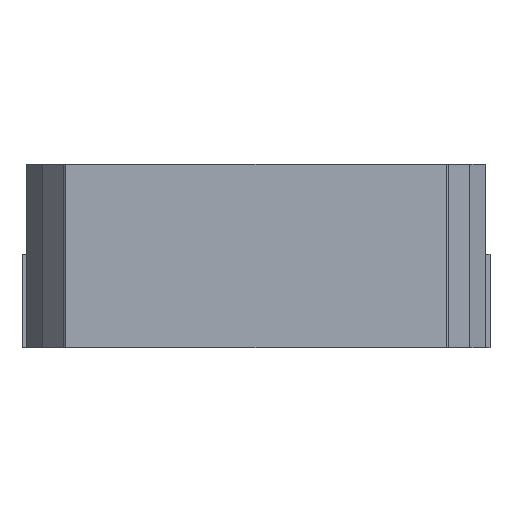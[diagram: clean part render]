
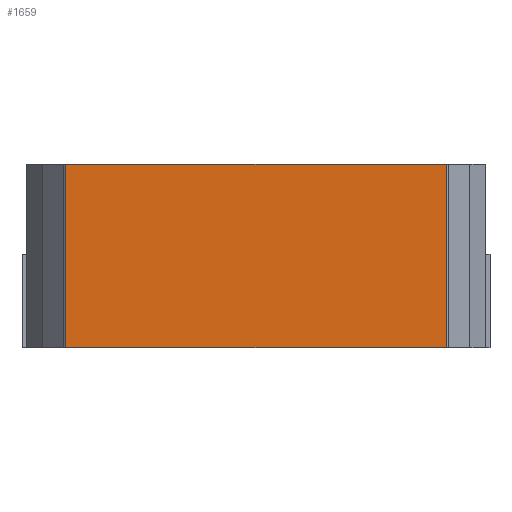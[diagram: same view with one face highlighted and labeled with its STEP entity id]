
A CAD part, front view. The second image highlights one B-rep face of the part: STEP entity #1659.
In plain terms, the highlighted planar face has unit normal (0, -1, 0).
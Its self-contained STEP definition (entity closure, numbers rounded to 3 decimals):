
#63 = PLANE('',#64);
#64 = AXIS2_PLACEMENT_3D('',#65,#66,#67);
#65 = CARTESIAN_POINT('',(-1.25,-1.,1.));
#66 = DIRECTION('',(0.,0.,1.));
#67 = DIRECTION('',(1.,0.,0.));
#117 = PLANE('',#118);
#118 = AXIS2_PLACEMENT_3D('',#119,#120,#121);
#119 = CARTESIAN_POINT('',(-1.25,-1.,0.));
#120 = DIRECTION('',(0.,0.,1.));
#121 = DIRECTION('',(1.,0.,0.));
#303 = VERTEX_POINT('',#304);
#304 = CARTESIAN_POINT('',(-1.036,-1.,1.));
#317 = PLANE('',#318);
#318 = AXIS2_PLACEMENT_3D('',#319,#320,#321);
#319 = CARTESIAN_POINT('',(-1.05,-0.986,-1.));
#320 = DIRECTION('',(0.685,0.729,0.));
#321 = DIRECTION('',(0.729,-0.685,0.));
#328 = EDGE_CURVE('',#303,#329,#331,.T.);
#329 = VERTEX_POINT('',#330);
#330 = CARTESIAN_POINT('',(1.036,-1.,1.));
#331 = SURFACE_CURVE('',#332,(#336,#343),.PCURVE_S1.);
#332 = LINE('',#333,#334);
#333 = CARTESIAN_POINT('',(-1.25,-1.,1.));
#334 = VECTOR('',#335,1.);
#335 = DIRECTION('',(1.,0.,0.));
#336 = PCURVE('',#63,#337);
#337 = DEFINITIONAL_REPRESENTATION('',(#338),#342);
#338 = LINE('',#339,#340);
#339 = CARTESIAN_POINT('',(0.,0.));
#340 = VECTOR('',#341,1.);
#341 = DIRECTION('',(1.,0.));
#342 = ( GEOMETRIC_REPRESENTATION_CONTEXT(2) 
PARAMETRIC_REPRESENTATION_CONTEXT() REPRESENTATION_CONTEXT('2D SPACE',''
  ) );
#343 = PCURVE('',#344,#349);
#344 = PLANE('',#345);
#345 = AXIS2_PLACEMENT_3D('',#346,#347,#348);
#346 = CARTESIAN_POINT('',(-1.25,-1.,0.));
#347 = DIRECTION('',(0.,1.,0.));
#348 = DIRECTION('',(0.,0.,1.));
#349 = DEFINITIONAL_REPRESENTATION('',(#350),#354);
#350 = LINE('',#351,#352);
#351 = CARTESIAN_POINT('',(1.,0.));
#352 = VECTOR('',#353,1.);
#353 = DIRECTION('',(0.,1.));
#354 = ( GEOMETRIC_REPRESENTATION_CONTEXT(2) 
PARAMETRIC_REPRESENTATION_CONTEXT() REPRESENTATION_CONTEXT('2D SPACE',''
  ) );
#371 = PLANE('',#372);
#372 = AXIS2_PLACEMENT_3D('',#373,#374,#375);
#373 = CARTESIAN_POINT('',(0.918,-1.11,-1.));
#374 = DIRECTION('',(-0.685,0.729,0.));
#375 = DIRECTION('',(0.729,0.685,0.));
#733 = VERTEX_POINT('',#734);
#734 = CARTESIAN_POINT('',(-1.036,-1.,0.));
#753 = EDGE_CURVE('',#733,#754,#756,.T.);
#754 = VERTEX_POINT('',#755);
#755 = CARTESIAN_POINT('',(1.036,-1.,0.));
#756 = SURFACE_CURVE('',#757,(#761,#768),.PCURVE_S1.);
#757 = LINE('',#758,#759);
#758 = CARTESIAN_POINT('',(-1.25,-1.,0.));
#759 = VECTOR('',#760,1.);
#760 = DIRECTION('',(1.,0.,0.));
#761 = PCURVE('',#117,#762);
#762 = DEFINITIONAL_REPRESENTATION('',(#763),#767);
#763 = LINE('',#764,#765);
#764 = CARTESIAN_POINT('',(0.,0.));
#765 = VECTOR('',#766,1.);
#766 = DIRECTION('',(1.,0.));
#767 = ( GEOMETRIC_REPRESENTATION_CONTEXT(2) 
PARAMETRIC_REPRESENTATION_CONTEXT() REPRESENTATION_CONTEXT('2D SPACE',''
  ) );
#768 = PCURVE('',#344,#769);
#769 = DEFINITIONAL_REPRESENTATION('',(#770),#774);
#770 = LINE('',#771,#772);
#771 = CARTESIAN_POINT('',(0.,0.));
#772 = VECTOR('',#773,1.);
#773 = DIRECTION('',(0.,1.));
#774 = ( GEOMETRIC_REPRESENTATION_CONTEXT(2) 
PARAMETRIC_REPRESENTATION_CONTEXT() REPRESENTATION_CONTEXT('2D SPACE',''
  ) );
#1640 = EDGE_CURVE('',#754,#329,#1641,.T.);
#1641 = SURFACE_CURVE('',#1642,(#1646,#1652),.PCURVE_S1.);
#1642 = LINE('',#1643,#1644);
#1643 = CARTESIAN_POINT('',(1.036,-1.,-0.5));
#1644 = VECTOR('',#1645,1.);
#1645 = DIRECTION('',(0.,-0.,1.));
#1646 = PCURVE('',#371,#1647);
#1647 = DEFINITIONAL_REPRESENTATION('',(#1648),#1651);
#1648 = B_SPLINE_CURVE_WITH_KNOTS('',1,(#1649,#1650),.UNSPECIFIED.,.F.,
  .F.,(2,2),(0.5,1.5),.PIECEWISE_BEZIER_KNOTS.);
#1649 = CARTESIAN_POINT('',(0.161,-1.));
#1650 = CARTESIAN_POINT('',(0.161,-2.));
#1651 = ( GEOMETRIC_REPRESENTATION_CONTEXT(2) 
PARAMETRIC_REPRESENTATION_CONTEXT() REPRESENTATION_CONTEXT('2D SPACE',''
  ) );
#1652 = PCURVE('',#344,#1653);
#1653 = DEFINITIONAL_REPRESENTATION('',(#1654),#1657);
#1654 = B_SPLINE_CURVE_WITH_KNOTS('',1,(#1655,#1656),.UNSPECIFIED.,.F.,
  .F.,(2,2),(0.5,1.5),.PIECEWISE_BEZIER_KNOTS.);
#1655 = CARTESIAN_POINT('',(0.,2.286));
#1656 = CARTESIAN_POINT('',(1.,2.286));
#1657 = ( GEOMETRIC_REPRESENTATION_CONTEXT(2) 
PARAMETRIC_REPRESENTATION_CONTEXT() REPRESENTATION_CONTEXT('2D SPACE',''
  ) );
#1659 = ADVANCED_FACE('',(#1660),#344,.F.);
#1660 = FACE_BOUND('',#1661,.F.);
#1661 = EDGE_LOOP('',(#1662,#1663,#1682,#1683));
#1662 = ORIENTED_EDGE('',*,*,#753,.F.);
#1663 = ORIENTED_EDGE('',*,*,#1664,.F.);
#1664 = EDGE_CURVE('',#303,#733,#1665,.T.);
#1665 = SURFACE_CURVE('',#1666,(#1670,#1676),.PCURVE_S1.);
#1666 = LINE('',#1667,#1668);
#1667 = CARTESIAN_POINT('',(-1.036,-1.,-0.5));
#1668 = VECTOR('',#1669,1.);
#1669 = DIRECTION('',(0.,0.,-1.));
#1670 = PCURVE('',#344,#1671);
#1671 = DEFINITIONAL_REPRESENTATION('',(#1672),#1675);
#1672 = B_SPLINE_CURVE_WITH_KNOTS('',1,(#1673,#1674),.UNSPECIFIED.,.F.,
  .F.,(2,2),(-1.5,-0.5),.PIECEWISE_BEZIER_KNOTS.);
#1673 = CARTESIAN_POINT('',(1.,0.214));
#1674 = CARTESIAN_POINT('',(0.,0.214));
#1675 = ( GEOMETRIC_REPRESENTATION_CONTEXT(2) 
PARAMETRIC_REPRESENTATION_CONTEXT() REPRESENTATION_CONTEXT('2D SPACE',''
  ) );
#1676 = PCURVE('',#317,#1677);
#1677 = DEFINITIONAL_REPRESENTATION('',(#1678),#1681);
#1678 = B_SPLINE_CURVE_WITH_KNOTS('',1,(#1679,#1680),.UNSPECIFIED.,.F.,
  .F.,(2,2),(-1.5,-0.5),.PIECEWISE_BEZIER_KNOTS.);
#1679 = CARTESIAN_POINT('',(0.02,-2.));
#1680 = CARTESIAN_POINT('',(0.02,-1.));
#1681 = ( GEOMETRIC_REPRESENTATION_CONTEXT(2) 
PARAMETRIC_REPRESENTATION_CONTEXT() REPRESENTATION_CONTEXT('2D SPACE',''
  ) );
#1682 = ORIENTED_EDGE('',*,*,#328,.T.);
#1683 = ORIENTED_EDGE('',*,*,#1640,.F.);
